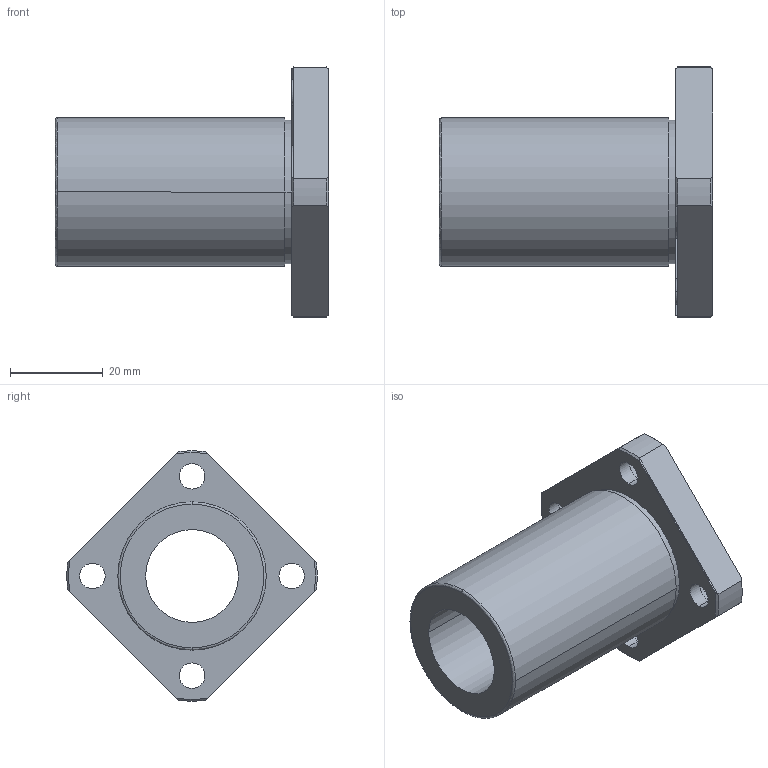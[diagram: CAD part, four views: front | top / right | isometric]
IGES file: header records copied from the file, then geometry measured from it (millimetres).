
Start section: 3D InterOp IGES (Version 21 0 1), Spatial Corp. Copyright (c) 1999-2007.
Global section: file name: NFES-20VM.igs; native system: Spatial Corp.; preprocessor: 3D InterOp GENERIC/IGES 3.0; author: Noname; organization: Noname; date: 20220308.101535; units: millimetre
Bounding box: 59 x 53.98 x 53.97 mm (x, y, z)
Surface area: 13590.9 mm2 (no closed solid volume)
Topology: 0 solids, 0 shells, 51 faces, 254 edges, 254 vertices
Faces by surface type: revolution 39, extrusion 12
